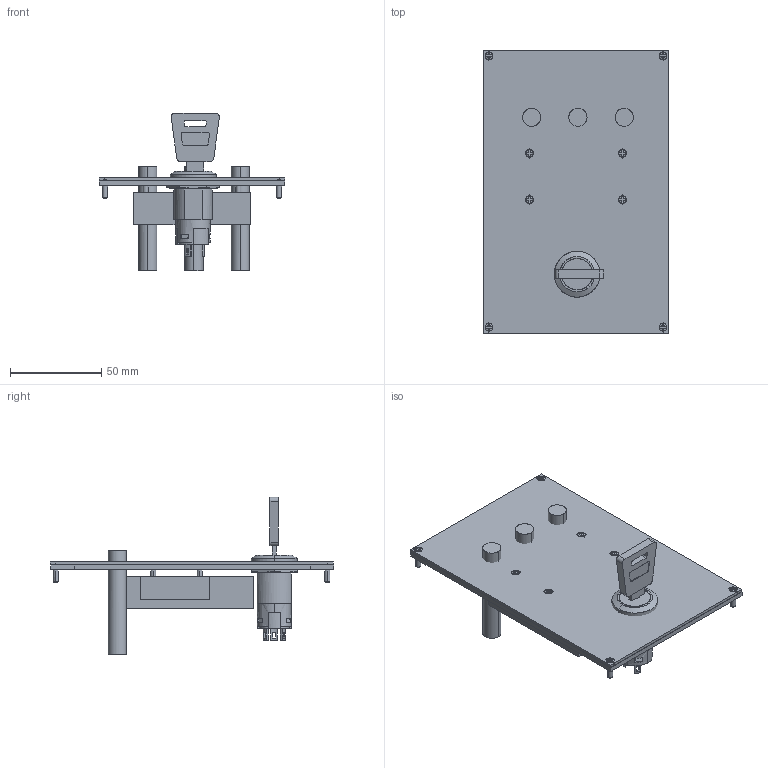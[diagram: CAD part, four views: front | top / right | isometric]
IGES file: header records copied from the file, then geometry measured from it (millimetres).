
Global section: file name: C:\ACADFILES\RSD-DR-FB-3D.igs; native system: AutoCAD-18.2s (LMS Tech) (Microsoft Windows NT Version 6.1 (x86)); preprocessor: Autodesk IGES Translator Mechanical Desktop 2011 (Feb 18 2011) from Autodesk, Inc.; date: 20120510.144441; units: inch
Bounding box: 101.6 x 155.42 x 86.25 mm (x, y, z)
Surface area: 83364 mm2 (no closed solid volume)
Topology: 0 solids, 0 shells, 573 faces, 2896 edges, 2929 vertices
Faces by surface type: bspline 573
